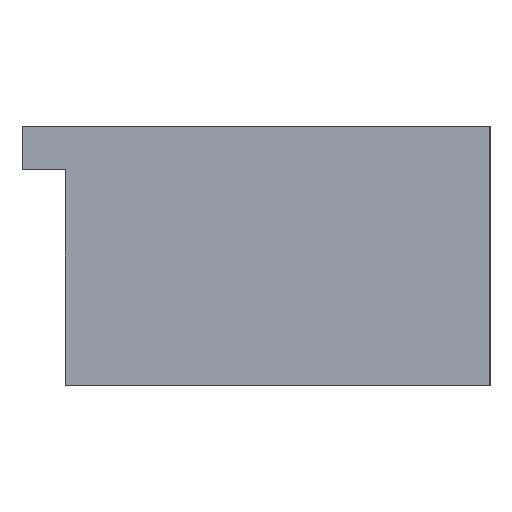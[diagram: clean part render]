
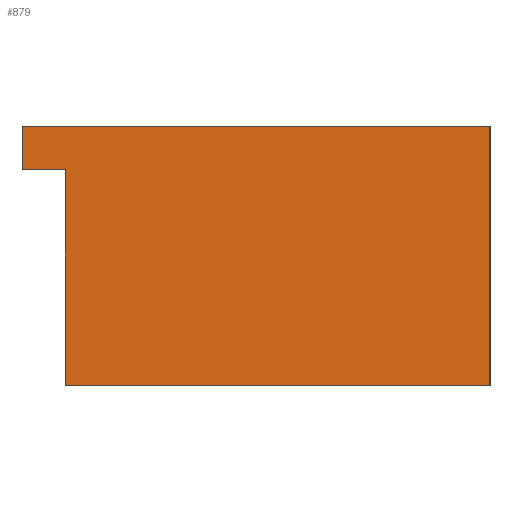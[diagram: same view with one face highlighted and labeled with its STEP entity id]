
A CAD part, left-side view. The second image highlights one B-rep face of the part: STEP entity #879.
In plain terms, the highlighted planar face has unit normal (-1, 0, 0).
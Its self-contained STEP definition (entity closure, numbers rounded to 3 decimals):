
#10 = ORIENTED_EDGE ( 'NONE', *, *, #211, .T. ) ;
#12 = ORIENTED_EDGE ( 'NONE', *, *, #174, .T. ) ;
#79 = VECTOR ( 'NONE', #306, 1000. ) ;
#127 = ORIENTED_EDGE ( 'NONE', *, *, #227, .F. ) ;
#153 = CARTESIAN_POINT ( 'NONE',  ( -110., -14.75, -9. ) ) ;
#174 = EDGE_CURVE ( 'NONE', #1202, #182, #454, .T. ) ;
#182 = VERTEX_POINT ( 'NONE', #1130 ) ;
#209 = CARTESIAN_POINT ( 'NONE',  ( -110., 17.75, 9. ) ) ;
#211 = EDGE_CURVE ( 'NONE', #182, #1090, #802, .T. ) ;
#225 = EDGE_CURVE ( 'NONE', #1244, #1173, #1187, .T. ) ;
#227 = EDGE_CURVE ( 'NONE', #1091, #1090, #1199, .T. ) ;
#231 = EDGE_CURVE ( 'NONE', #1244, #1091, #1234, .T. ) ;
#283 = ORIENTED_EDGE ( 'NONE', *, *, #225, .T. ) ;
#289 = EDGE_CURVE ( 'NONE', #1173, #1202, #322, .T. ) ;
#291 = DIRECTION ( 'NONE',  ( 0., 0., -1. ) ) ;
#306 = DIRECTION ( 'NONE',  ( 0., -1., 0. ) ) ;
#317 = EDGE_LOOP ( 'NONE', ( #10, #127, #599, #283, #336, #12 ) ) ;
#318 = DIRECTION ( 'NONE',  ( 1., 0., 0. ) ) ;
#322 = LINE ( 'NONE', #389, #1208 ) ;
#334 = CARTESIAN_POINT ( 'NONE',  ( -110., -14.75, 9. ) ) ;
#336 = ORIENTED_EDGE ( 'NONE', *, *, #289, .T. ) ;
#351 = DIRECTION ( 'NONE',  ( 0., -1., 0. ) ) ;
#353 = VECTOR ( 'NONE', #801, 1000. ) ;
#389 = CARTESIAN_POINT ( 'NONE',  ( -110., 14.75, 6. ) ) ;
#454 = LINE ( 'NONE', #525, #840 ) ;
#499 = PLANE ( 'NONE',  #1144 ) ;
#525 = CARTESIAN_POINT ( 'NONE',  ( -110., 14.75, 9. ) ) ;
#544 = DIRECTION ( 'NONE',  ( 0., 1., 0. ) ) ;
#555 = CARTESIAN_POINT ( 'NONE',  ( -110., 17.75, 6. ) ) ;
#561 = DIRECTION ( 'NONE',  ( 0., 0., -1. ) ) ;
#599 = ORIENTED_EDGE ( 'NONE', *, *, #231, .F. ) ;
#662 = FACE_OUTER_BOUND ( 'NONE', #317, .T. ) ;
#740 = CARTESIAN_POINT ( 'NONE',  ( -110., 17.75, 9. ) ) ;
#743 = CARTESIAN_POINT ( 'NONE',  ( -110., 14.75, 6. ) ) ;
#763 = DIRECTION ( 'NONE',  ( 0., 0., -1. ) ) ;
#785 = CARTESIAN_POINT ( 'NONE',  ( -110., -14.75, 9. ) ) ;
#795 = CARTESIAN_POINT ( 'NONE',  ( -110., 14.75, -9. ) ) ;
#801 = DIRECTION ( 'NONE',  ( 0., -1., 0. ) ) ;
#802 = LINE ( 'NONE', #795, #353 ) ;
#840 = VECTOR ( 'NONE', #763, 1000. ) ;
#879 = ADVANCED_FACE ( 'NONE', ( #662 ), #499, .F. ) ;
#892 = VECTOR ( 'NONE', #561, 1000. ) ;
#1013 = VECTOR ( 'NONE', #291, 1000. ) ;
#1090 = VERTEX_POINT ( 'NONE', #153 ) ;
#1091 = VERTEX_POINT ( 'NONE', #785 ) ;
#1130 = CARTESIAN_POINT ( 'NONE',  ( -110., 14.75, -9. ) ) ;
#1144 = AXIS2_PLACEMENT_3D ( 'NONE', #1214, #318, #544 ) ;
#1173 = VERTEX_POINT ( 'NONE', #555 ) ;
#1187 = LINE ( 'NONE', #740, #892 ) ;
#1199 = LINE ( 'NONE', #334, #1013 ) ;
#1202 = VERTEX_POINT ( 'NONE', #743 ) ;
#1208 = VECTOR ( 'NONE', #351, 1000. ) ;
#1214 = CARTESIAN_POINT ( 'NONE',  ( -110., 14.75, 9. ) ) ;
#1234 = LINE ( 'NONE', #1236, #79 ) ;
#1236 = CARTESIAN_POINT ( 'NONE',  ( -110., 14.75, 9. ) ) ;
#1244 = VERTEX_POINT ( 'NONE', #209 ) ;
